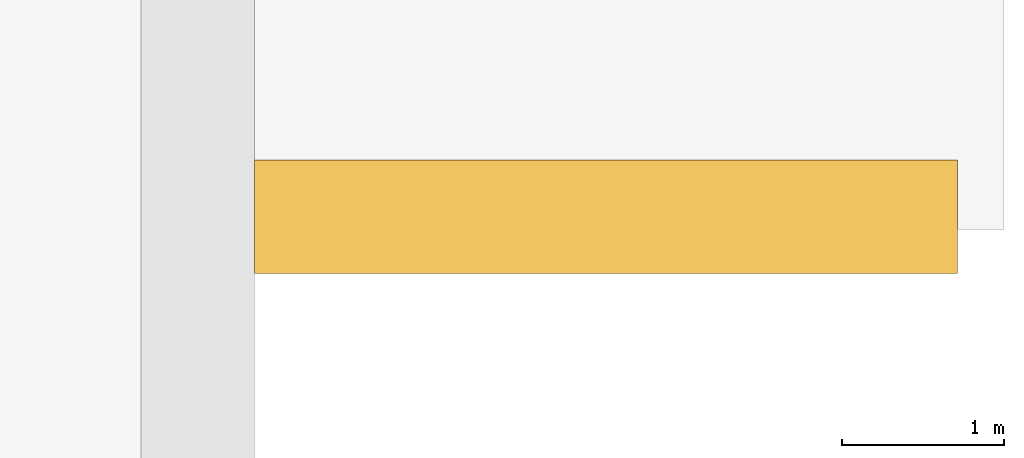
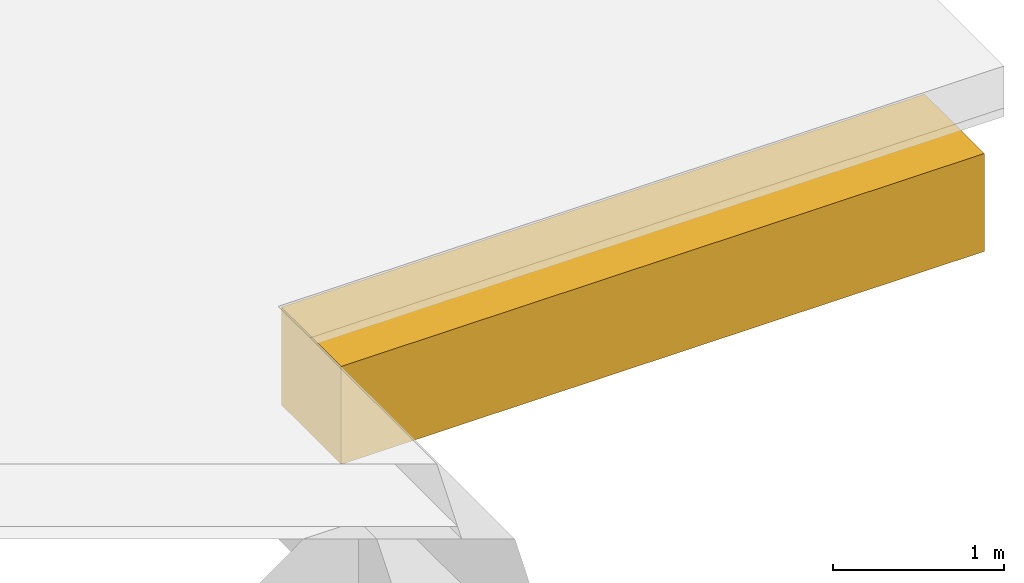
# One storey, part 3 of 3: 1 covering.
"""IFC4 building model written with IfcOpenShell, lengths in metres."""

from ifc_helpers import new_model, entity, si_unit, converted_unit, derived_unit, frame, origin, place, context, subcontext, project, spatial, faceted_brep, material, element, save


model = new_model("IFC4")

# Units and contexts
model_context = context("Model", 3, precision=1e-05, world=origin())
body_context = subcontext(model_context, "Body", "Model", "MODEL_VIEW")
ifc_project = project(units=[si_unit("LENGTHUNIT", "METRE"), si_unit("AREAUNIT", "SQUARE_METRE"), si_unit("VOLUMEUNIT", "CUBIC_METRE"), si_unit("MASSUNIT", "GRAM", prefix="KILO"), converted_unit("PLANEANGLEUNIT", "DEGREE", entity("IfcPlaneAngleMeasure", 0.0174532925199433), si_unit("PLANEANGLEUNIT", "RADIAN"), dimensions=[0, 0, 0, 0, 0, 0, 0]), derived_unit("THERMALTRANSMITTANCEUNIT", [(si_unit("POWERUNIT", "WATT"), 1), (si_unit("THERMODYNAMICTEMPERATUREUNIT", "KELVIN"), -1), (si_unit("LENGTHUNIT", "METRE"), -2)]), derived_unit("VOLUMETRICFLOWRATEUNIT", [(si_unit("LENGTHUNIT", "METRE"), 3), (converted_unit("TIMEUNIT", "hour", entity("IfcTimeMeasure", 3600.0), si_unit("TIMEUNIT", "SECOND"), dimensions=[0, 0, 1, 0, 0, 0, 0]), -1), (si_unit("LENGTHUNIT", "METRE"), -1)])], contexts=[model_context])

# Site, building, storey
site_placement = place(None, origin())
site = spatial("IfcSite", under=ifc_project, at=site_placement, Name="Psychiatrie Neubau Wunstorf", CompositionType="ELEMENT")
building_placement = place(site_placement, origin())
building = spatial("IfcBuilding", under=site, at=building_placement, Name="Neubau H1 Sozialzentrum", CompositionType="ELEMENT")
storey_placement = place(building_placement, frame((0.0, 0.0, 0.2)))
storey = spatial("IfcBuildingStorey", under=building, at=storey_placement, Name="H1 Gründung", CompositionType="ELEMENT", Elevation=0.2)

# Covering
ifc_material = material(Name="STB")
covering_placement = place(storey_placement, frame((-4.70052494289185, 11.5262463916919, -0.76)))
element("IfcCovering", 1, at=covering_placement, inside=storey, material=ifc_material, Name="Streifenfundament", PredefinedType="NOTDEFINED", context=body_context, shape_type="Brep", body=[
    faceted_brep([(0.0, 0.7, 0.0), (4.34551151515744, 0.7, 0.0), (4.34551151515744, 0.7, 0.700000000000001), (0.0, 0.7, 0.700000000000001), (4.34551151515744, 0.0, 0.0), (4.34551151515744, 0.0, 0.700000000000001), (0.0, 0.0, 0.0), (0.0, 0.0, 0.700000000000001)], [[[0, 1, 2, 3]], [[1, 4, 5, 2]], [[4, 6, 7, 5]], [[6, 0, 3, 7]], [[7, 3, 2, 5]], [[0, 6, 4, 1]]], orient=[[False], [False], [False], [False], [False], [False]]),
])

save(model, "model.ifc")
